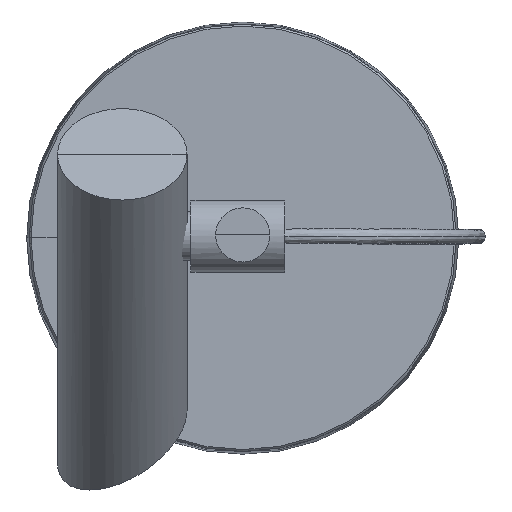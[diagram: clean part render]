
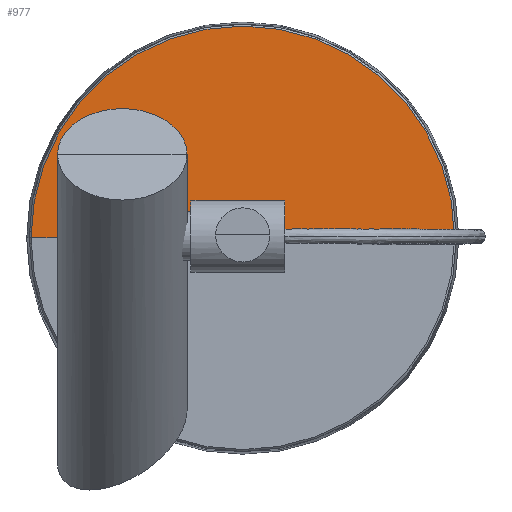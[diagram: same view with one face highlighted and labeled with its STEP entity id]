
A CAD part, top view. The second image highlights one B-rep face of the part: STEP entity #977.
In plain terms, the highlighted planar face has unit normal (0, 0, 1).
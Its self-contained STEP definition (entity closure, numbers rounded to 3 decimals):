
#122=FACE_OUTER_BOUND('',#201,.T.);
#201=EDGE_LOOP('',(#679,#680));
#281=CIRCLE('',#1073,58.8);
#339=LINE('',#1588,#399);
#399=VECTOR('',#1237,304.8);
#459=VERTEX_POINT('',#1586);
#460=VERTEX_POINT('',#1587);
#535=EDGE_CURVE('',#459,#460,#339,.T.);
#537=EDGE_CURVE('',#459,#460,#281,.T.);
#679=ORIENTED_EDGE('',*,*,#535,.T.);
#680=ORIENTED_EDGE('',*,*,#537,.F.);
#934=PLANE('',#1072);
#977=ADVANCED_FACE('',(#122),#934,.T.);
#1072=AXIS2_PLACEMENT_3D('',#1590,#1240,#1241);
#1073=AXIS2_PLACEMENT_3D('',#1591,#1242,#1243);
#1237=DIRECTION('',(1.,0.,0.));
#1240=DIRECTION('center_axis',(0.,0.,1.));
#1241=DIRECTION('ref_axis',(1.,0.,0.));
#1242=DIRECTION('center_axis',(0.,0.,-1.));
#1243=DIRECTION('ref_axis',(1.,0.,0.));
#1586=CARTESIAN_POINT('',(-58.8,0.,51.667));
#1587=CARTESIAN_POINT('',(58.8,0.,51.667));
#1588=CARTESIAN_POINT('',(-58.8,0.,51.667));
#1590=CARTESIAN_POINT('Origin',(0.,0.,51.667));
#1591=CARTESIAN_POINT('Origin',(0.,0.,51.667));
